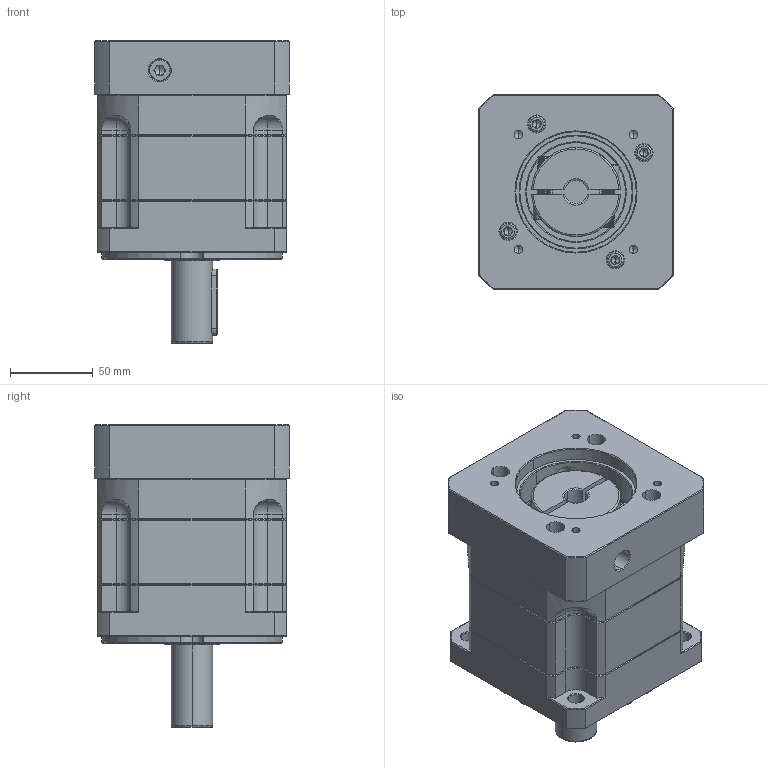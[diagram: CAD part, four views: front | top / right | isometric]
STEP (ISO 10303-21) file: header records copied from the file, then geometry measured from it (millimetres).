
FILE_DESCRIPTION (( 'STEP AP214' ), '1' );
FILE_NAME ('ZB115A-D25-L1-P2-14-73-69.6X69.6-M6.step', '2023-08-26T06:20:02', ( '' ), ( '' ), 'SwSTEP 2.0', 'SolidWorks 2016', '' );
FILE_SCHEMA (( 'AUTOMOTIVE_DESIGN' ));
Length unit declared in the file: millimetre
Products named in the file (1): ZB115A-D25-L1-P2-14-73-69.6X69.6-M6
Bounding box: 118 x 118 x 183.5 mm (x, y, z)
Volume: 1519140.1 mm3; surface area: 160600 mm2
Topology: 6 solids, 6 shells, 2192 faces, 5823 edges, 3731 vertices
Faces by surface type: plane 1136, bspline 399, cone 328, cylinder 297, torus 28, sphere 4
Entity records: 110900 total; most frequent: CARTESIAN_POINT 34841, ORIENTED_EDGE 11578, DIRECTION 9404, EDGE_CURVE 5789, VECTOR 3782, LINE 3782, VERTEX_POINT 3731, AXIS2_PLACEMENT_3D 2811
